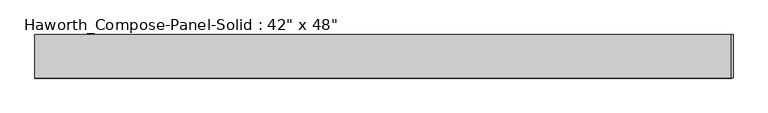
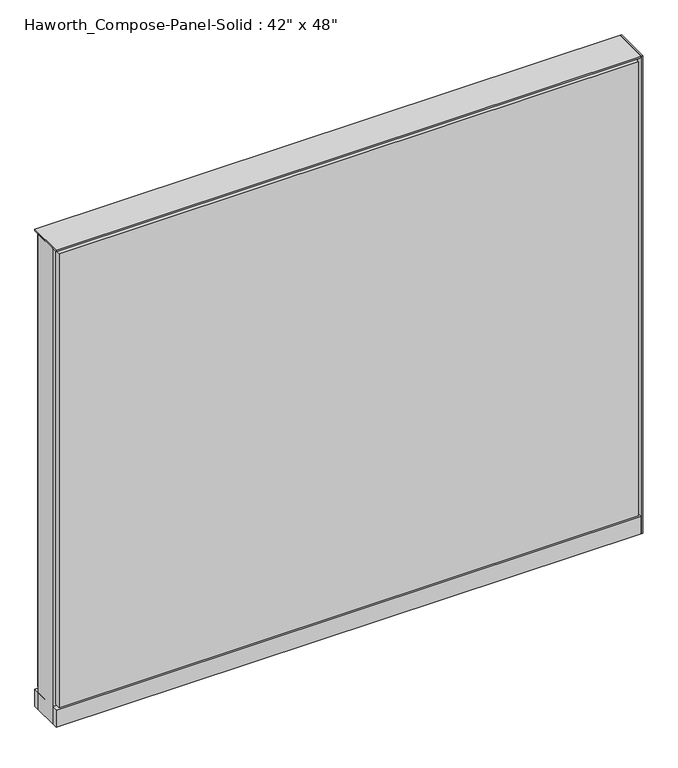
"""IFC4 building model written with IfcOpenShell, lengths in millimetres: furniture geometry."""

from ifc_helpers import new_model, si_unit, point, frame, frame_2d, origin, origin_with_axes, place, context, project, spatial, polyline, circle_curve, trimmed, segment, composite_curve, outline, extrude, source, transform, mapped, element, save


def furniture_be341e5f(model_context):
    return source(origin(), model_context, "Body", "SweptSolid", [
        extrude(outline(composite_curve([segment(trimmed(circle_curve(frame_2d((-530.9597098, 0.0)), 12.7), [point((-543.6597098, 0.0))], [point((-518.2597098, 0.0))], False, "CARTESIAN"), True, "CONTINUOUS"), segment(trimmed(circle_curve(frame_2d((-530.9597098, 0.0)), 12.7), [point((-518.2597098, 0.0))], [point((-543.6597098, 0.0))], False, "CARTESIAN"), True, "CONTINUOUS")], self_intersect=False)), origin_with_axes(), (0.0, 0.0, 1.0), 12.7),
        extrude(outline(composite_curve([segment(trimmed(circle_curve(frame_2d((535.8402902, 0.0)), 12.7), [point((523.1402902, 0.0))], [point((548.5402902, 0.0))], False, "CARTESIAN"), True, "CONTINUOUS"), segment(trimmed(circle_curve(frame_2d((535.8402902, 0.0)), 12.7), [point((548.5402902, 0.0))], [point((523.1402902, 0.0))], False, "CARTESIAN"), True, "CONTINUOUS")], self_intersect=False)), origin_with_axes(), (0.0, 0.0, 1.0), 12.7),
        extrude(outline(polyline([(615.2152902, 38.1), (615.2152902, -38.1), (612.0402902, -38.1), (612.0402902, 38.1), (615.2152902, 38.1)])), frame((0.0, 0.0, 12.7), z_axis=(0.0, 0.0, 1.0), x_axis=(1.0, 0.0, 0.0)), (0.0, 0.0, 1.0), 1050.925),
        extrude(outline(polyline([(605.6902902, 38.1), (605.6902902, 25.4), (-600.8097098, 25.4), (-600.8097098, 38.1), (605.6902902, 38.1)])), frame((0.0, 0.0, 53.975), z_axis=(0.0, 0.0, 1.0), x_axis=(1.0, 0.0, 0.0)), (0.0, 0.0, 1.0), 1000.125),
        extrude(outline(polyline([(605.6902902, -38.1), (-600.8097098, -38.1), (-600.8097098, -25.4), (605.6902902, -25.4), (605.6902902, -38.1)])), frame((0.0, 0.0, 53.975), z_axis=(0.0, 0.0, 1.0), x_axis=(1.0, 0.0, 0.0)), (0.0, 0.0, 1.0), 1000.125),
        extrude(outline(polyline([(612.0402902, 25.4), (612.0402902, -25.4), (-607.1597098, -25.4), (-607.1597098, 25.4), (612.0402902, 25.4)])), frame((0.0, 0.0, 12.7), z_axis=(0.0, 0.0, 1.0), x_axis=(1.0, 0.0, 0.0)), (0.0, 0.0, 1.0), 1047.75),
        extrude(outline(polyline([(-607.1597098, -38.1), (-607.1597098, 38.1), (612.0402902, 38.1), (612.0402902, -38.1), (-607.1597098, -38.1)])), frame((0.0, 0.0, 12.7), z_axis=(0.0, 0.0, 1.0), x_axis=(1.0, 0.0, 0.0)), (0.0, 0.0, 1.0), 38.1),
        extrude(outline(polyline([(-607.1597098, -38.1), (-607.1597098, 38.1), (612.0402902, 38.1), (612.0402902, -38.1), (-607.1597098, -38.1)])), frame((0.0, 0.0, 1060.45), z_axis=(0.0, 0.0, 1.0), x_axis=(1.0, 0.0, 0.0)), (0.0, 0.0, 1.0), 3.175),
    ])


if __name__ == "__main__":
    model = new_model("IFC4")
    model_context = context("Model", 3, world=origin())
    ifc_project = project(units=[si_unit("LENGTHUNIT", "METRE", prefix="MILLI")], contexts=[model_context])
    site = spatial("IfcSite", under=ifc_project)
    building = spatial("IfcBuilding", under=site)
    placement = place(None, origin())
    furniture_shape = furniture_be341e5f(model_context)
    element("IfcFurniture", 1, ObjectType="Haworth_Compose-Panel-Solid : 42\" x 48\"", at=placement, inside=building, context=model_context, shape_type="MappedRepresentation", body=[
        mapped(furniture_shape, transform((0.0, 0.0, 0.0), x_axis=(1.0, 0.0, 0.0), y_axis=(0.0, 1.0, 0.0), z_axis=(0.0, 0.0, 1.0))),
    ])
    save(model, "model.ifc")
